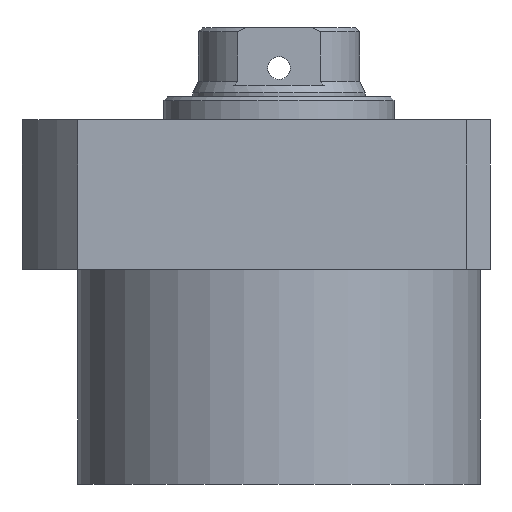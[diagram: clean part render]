
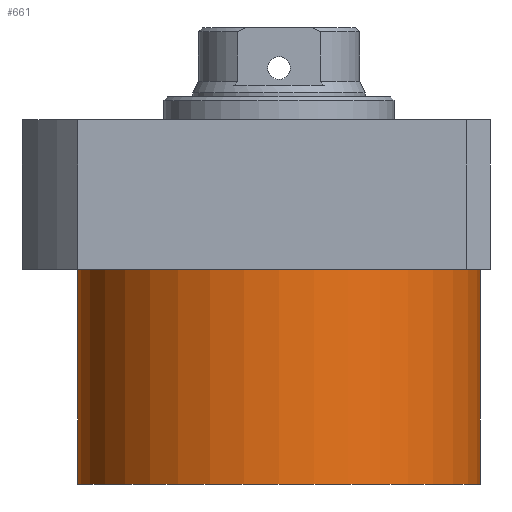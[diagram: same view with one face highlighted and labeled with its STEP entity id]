
A CAD part, front view. The second image highlights one B-rep face of the part: STEP entity #661.
In plain terms, the highlighted cylindrical face has radius 52.5 mm (diameter 105 mm), a partial arc.
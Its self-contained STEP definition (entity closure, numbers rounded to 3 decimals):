
#86 = CARTESIAN_POINT ( 'NONE',  ( 0., 0., -75.5 ) ) ;
#124 = CARTESIAN_POINT ( 'NONE',  ( 52.5, 0., -75.5 ) ) ;
#136 = ORIENTED_EDGE ( 'NONE', *, *, #795, .T. ) ;
#171 = DIRECTION ( 'NONE',  ( 0., 0., 1. ) ) ;
#255 = DIRECTION ( 'NONE',  ( 0., 0., -1. ) ) ;
#277 = FACE_OUTER_BOUND ( 'NONE', #2160, .T. ) ;
#326 = EDGE_CURVE ( 'NONE', #1519, #1977, #891, .T. ) ;
#426 = DIRECTION ( 'NONE',  ( 1., 0., 0. ) ) ;
#455 = CIRCLE ( 'NONE', #1039, 52.5 ) ;
#661 = ADVANCED_FACE ( 'NONE', ( #277 ), #2132, .T. ) ;
#729 = DIRECTION ( 'NONE',  ( 0., 0., -1. ) ) ;
#732 = AXIS2_PLACEMENT_3D ( 'NONE', #1615, #255, #426 ) ;
#781 = DIRECTION ( 'NONE',  ( 0., 0., 1. ) ) ;
#795 = EDGE_CURVE ( 'NONE', #2020, #1977, #1536, .T. ) ;
#834 = CARTESIAN_POINT ( 'NONE',  ( 0., 0., -75.5 ) ) ;
#849 = LINE ( 'NONE', #1111, #1028 ) ;
#854 = CARTESIAN_POINT ( 'NONE',  ( -52.5, 0., -75.5 ) ) ;
#891 = LINE ( 'NONE', #1598, #1826 ) ;
#1011 = ORIENTED_EDGE ( 'NONE', *, *, #1447, .T. ) ;
#1015 = DIRECTION ( 'NONE',  ( 1., 0., 0. ) ) ;
#1028 = VECTOR ( 'NONE', #1479, 1000. ) ;
#1039 = AXIS2_PLACEMENT_3D ( 'NONE', #86, #729, #1402 ) ;
#1111 = CARTESIAN_POINT ( 'NONE',  ( 52.5, 0., -75.5 ) ) ;
#1205 = ORIENTED_EDGE ( 'NONE', *, *, #1614, .F. ) ;
#1236 = CARTESIAN_POINT ( 'NONE',  ( -52.5, 0., -19.5 ) ) ;
#1402 = DIRECTION ( 'NONE',  ( -1., 0., 0. ) ) ;
#1405 = CARTESIAN_POINT ( 'NONE',  ( 52.5, 0., -19.5 ) ) ;
#1447 = EDGE_CURVE ( 'NONE', #2169, #2020, #849, .T. ) ;
#1479 = DIRECTION ( 'NONE',  ( 0., 0., 1. ) ) ;
#1519 = VERTEX_POINT ( 'NONE', #854 ) ;
#1536 = CIRCLE ( 'NONE', #732, 52.5 ) ;
#1598 = CARTESIAN_POINT ( 'NONE',  ( -52.5, 0., -75.5 ) ) ;
#1614 = EDGE_CURVE ( 'NONE', #2169, #1519, #455, .T. ) ;
#1615 = CARTESIAN_POINT ( 'NONE',  ( 0., 0., -19.5 ) ) ;
#1644 = AXIS2_PLACEMENT_3D ( 'NONE', #834, #171, #1015 ) ;
#1826 = VECTOR ( 'NONE', #781, 1000. ) ;
#1977 = VERTEX_POINT ( 'NONE', #1236 ) ;
#2020 = VERTEX_POINT ( 'NONE', #1405 ) ;
#2132 = CYLINDRICAL_SURFACE ( 'NONE', #1644, 52.5 ) ;
#2160 = EDGE_LOOP ( 'NONE', ( #2166, #1205, #1011, #136 ) ) ;
#2166 = ORIENTED_EDGE ( 'NONE', *, *, #326, .F. ) ;
#2169 = VERTEX_POINT ( 'NONE', #124 ) ;
